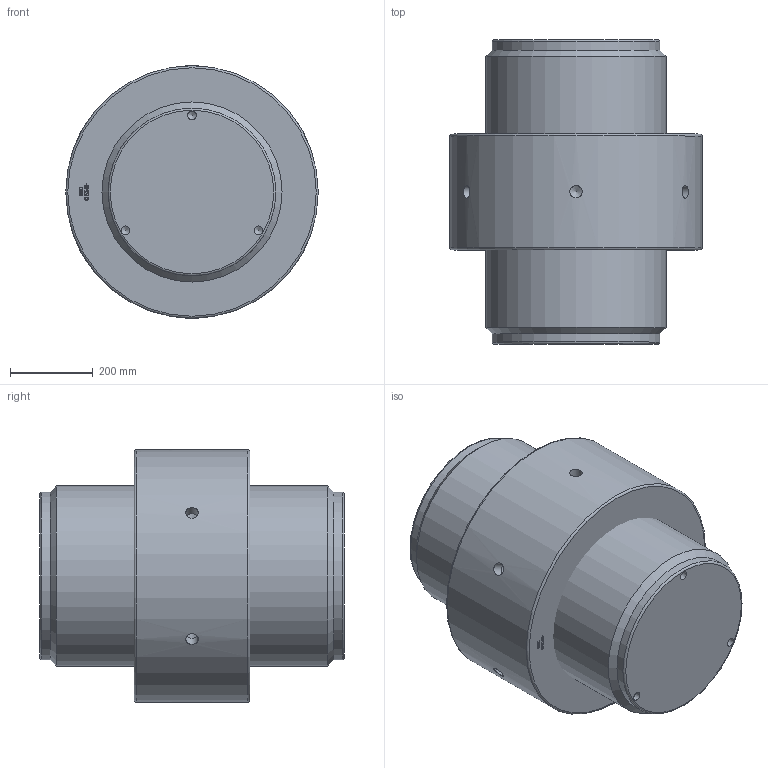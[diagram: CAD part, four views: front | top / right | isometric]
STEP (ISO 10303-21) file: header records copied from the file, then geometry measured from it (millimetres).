
FILE_DESCRIPTION(/* description */ (''),/* implementation_level */ '2;1');
FILE_NAME(/* name */ 'F:\Clienti LS\Redaelli\CYT\CYT\ARRNGEMENT\CYT140 61 061 0.stp',/* time_stamp */ '2021-05-09T08:59:26+02:00',/* author */ ('ranca'),/* organization */ (''),/* preprocessor_version */ 'ST-DEVELOPER v16.13',/* originating_system */ 'Autodesk Inventor 2018',/* authorisation */ '');
FILE_SCHEMA (('AUTOMOTIVE_DESIGN { 1 0 10303 214 3 1 1 }'));
Length unit declared in the file: millimetre
Products named in the file (3): CYT012-61-061-0; CYT012-61-061-0_1; CYT012-61-061-0_DADO
Assembly tree (2 placements, depth 2):
  CYT012-61-061-0
    CYT012-61-061-0_1
    CYT012-61-061-0_DADO
Bounding box: 610 x 735 x 610 mm (x, y, z)
Volume: 149156352.6 mm3; surface area: 2497728 mm2
Topology: 2 solids, 2 shells, 330 faces, 896 edges, 596 vertices
Faces by surface type: plane 151, bspline 150, cylinder 14, cone 11, torus 4
Full cylindrical faces by diameter (mm): 20.752 x3, 30 x6, 405 x2, 428.505 x1, 435 x1, 610 x1
Entity records: 11098 total; most frequent: CARTESIAN_POINT 3926, ORIENTED_EDGE 1702, DIRECTION 935, EDGE_CURVE 851, VERTEX_POINT 580, LINE 513, VECTOR 513, EDGE_LOOP 387
